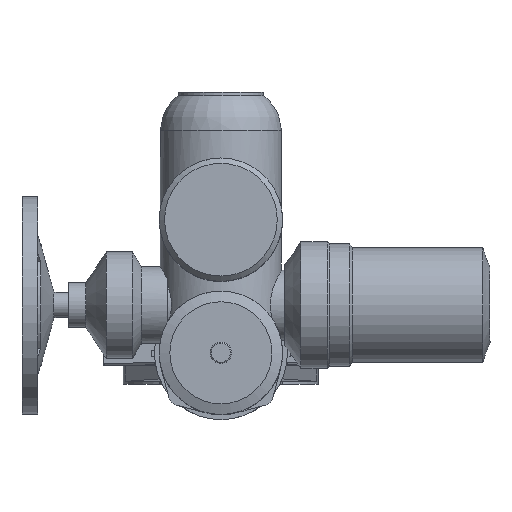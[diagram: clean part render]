
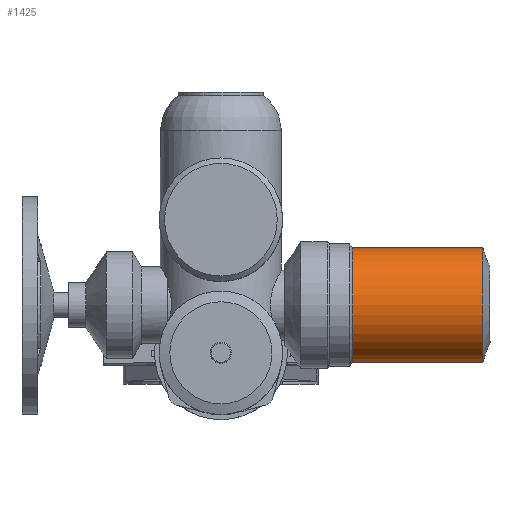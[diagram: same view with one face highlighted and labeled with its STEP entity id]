
A CAD part, top view. The second image highlights one B-rep face of the part: STEP entity #1425.
In plain terms, the highlighted cylindrical face has radius 54 mm (diameter 108 mm), a full revolution.
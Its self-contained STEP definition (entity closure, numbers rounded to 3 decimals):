
#1425=ADVANCED_FACE('',(#3383,#3385),#3387,.T.);
#3383=FACE_OUTER_BOUND('',#3384,.T.);
#3384=EDGE_LOOP('',(#4808));
#3385=FACE_OUTER_BOUND('',#3386,.T.);
#3386=EDGE_LOOP('',(#4809));
#3387=CYLINDRICAL_SURFACE('',#3388,54.);
#3388=AXIS2_PLACEMENT_3D('',#3389,#3390,#3391);
#3389=CARTESIAN_POINT('',(246.085,45.,511.));
#3390=DIRECTION('',(-1.,0.,0.));
#3391=DIRECTION('',(0.,0.,1.));
#4808=ORIENTED_EDGE('',*,*,#5632,.T.);
#4809=ORIENTED_EDGE('',*,*,#5562,.F.);
#5562=EDGE_CURVE('',#6387,#6387,#6388,.T.);
#5632=EDGE_CURVE('',#6509,#6509,#6510,.T.);
#6387=VERTEX_POINT('',#9233);
#6388=CIRCLE('',#9234,54.);
#6509=VERTEX_POINT('',#9515);
#6510=CIRCLE('',#9516,54.);
#9233=CARTESIAN_POINT('',(123.505,45.,565.));
#9234=AXIS2_PLACEMENT_3D('',#9235,#9236,#9237);
#9235=CARTESIAN_POINT('',(123.505,45.,511.));
#9236=DIRECTION('',(-1.,0.,0.));
#9237=DIRECTION('',(0.,0.,1.));
#9515=CARTESIAN_POINT('',(246.085,45.,565.));
#9516=AXIS2_PLACEMENT_3D('',#9517,#9518,#9519);
#9517=CARTESIAN_POINT('',(246.085,45.,511.));
#9518=DIRECTION('',(-1.,0.,0.));
#9519=DIRECTION('',(0.,0.,1.));
